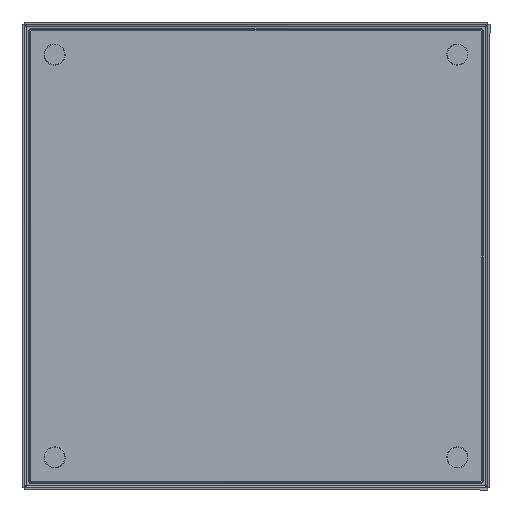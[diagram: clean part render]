
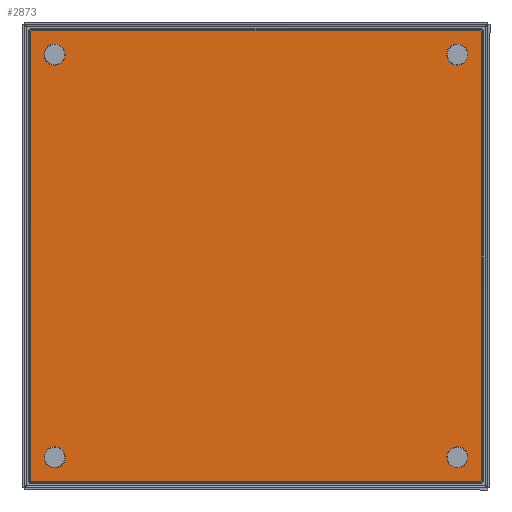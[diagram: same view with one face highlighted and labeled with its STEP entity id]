
A CAD part, front view. The second image highlights one B-rep face of the part: STEP entity #2873.
In plain terms, the highlighted planar face has unit normal (0, -1, 0) as drawn and (0, 0, -1) by its records, which use the part's own axes.
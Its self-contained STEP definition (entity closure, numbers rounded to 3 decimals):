
#48 = CARTESIAN_POINT ( 'NONE',  ( 95.5, 95.5, -1. ) ) ;
#86 = CARTESIAN_POINT ( 'NONE',  ( 106.5, -106.5, -1. ) ) ;
#90 = CARTESIAN_POINT ( 'NONE',  ( 0., 0., -1. ) ) ;
#145 = DIRECTION ( 'NONE',  ( 0., 0., -1. ) ) ;
#214 = CARTESIAN_POINT ( 'NONE',  ( -99., -95.5, -1. ) ) ;
#444 = DIRECTION ( 'NONE',  ( 1., 0., 0. ) ) ;
#602 = EDGE_CURVE ( 'NONE', #11465, #8908, #10019, .T. ) ;
#925 = CARTESIAN_POINT ( 'NONE',  ( 107.5, -106.5, -1. ) ) ;
#939 = LINE ( 'NONE', #8787, #7291 ) ;
#1048 = VERTEX_POINT ( 'NONE', #4214 ) ;
#1106 = FACE_BOUND ( 'NONE', #1204, .T. ) ;
#1155 = ORIENTED_EDGE ( 'NONE', *, *, #4285, .F. ) ;
#1181 = DIRECTION ( 'NONE',  ( 0., -1., 0. ) ) ;
#1204 = EDGE_LOOP ( 'NONE', ( #11854, #2503 ) ) ;
#1265 = DIRECTION ( 'NONE',  ( 1., 0., 0. ) ) ;
#1391 = VECTOR ( 'NONE', #9056, 1000. ) ;
#1548 = DIRECTION ( 'NONE',  ( 0., 0., 1. ) ) ;
#1554 = AXIS2_PLACEMENT_3D ( 'NONE', #90, #7892, #11593 ) ;
#1572 = DIRECTION ( 'NONE',  ( -1., 0., 0. ) ) ;
#1590 = VERTEX_POINT ( 'NONE', #9969 ) ;
#1615 = CARTESIAN_POINT ( 'NONE',  ( -92., -95.5, -1. ) ) ;
#1677 = EDGE_LOOP ( 'NONE', ( #6624, #10249, #11020, #3616, #1155, #3593, #2530, #5745 ) ) ;
#1686 = CARTESIAN_POINT ( 'NONE',  ( -95.5, -95.5, -1. ) ) ;
#1730 = AXIS2_PLACEMENT_3D ( 'NONE', #11908, #1548, #5409 ) ;
#2024 = DIRECTION ( 'NONE',  ( 1., 0., 0. ) ) ;
#2109 = VERTEX_POINT ( 'NONE', #8868 ) ;
#2322 = DIRECTION ( 'NONE',  ( 1., 0., 0. ) ) ;
#2376 = DIRECTION ( 'NONE',  ( 1., 0., 0. ) ) ;
#2503 = ORIENTED_EDGE ( 'NONE', *, *, #5361, .T. ) ;
#2530 = ORIENTED_EDGE ( 'NONE', *, *, #4666, .F. ) ;
#2686 = CIRCLE ( 'NONE', #6920, 1. ) ;
#2824 = EDGE_CURVE ( 'NONE', #6561, #8128, #8230, .T. ) ;
#2871 = CARTESIAN_POINT ( 'NONE',  ( -106.5, 106.5, -1. ) ) ;
#2873 = ADVANCED_FACE ( 'NONE', ( #7705, #1106, #9711, #3027, #6876 ), #5986, .F. ) ;
#2904 = CIRCLE ( 'NONE', #11146, 1. ) ;
#2931 = DIRECTION ( 'NONE',  ( 0., 0., 1. ) ) ;
#2973 = CIRCLE ( 'NONE', #1730, 3.5 ) ;
#3027 = FACE_BOUND ( 'NONE', #10619, .T. ) ;
#3189 = LINE ( 'NONE', #3311, #1391 ) ;
#3311 = CARTESIAN_POINT ( 'NONE',  ( 107.5, -107.5, -1. ) ) ;
#3403 = CARTESIAN_POINT ( 'NONE',  ( -95.5, 95.5, -1. ) ) ;
#3470 = DIRECTION ( 'NONE',  ( 0., 0., 1. ) ) ;
#3557 = LINE ( 'NONE', #9238, #7296 ) ;
#3593 = ORIENTED_EDGE ( 'NONE', *, *, #602, .T. ) ;
#3616 = ORIENTED_EDGE ( 'NONE', *, *, #8023, .T. ) ;
#3628 = EDGE_LOOP ( 'NONE', ( #6370, #6354 ) ) ;
#3641 = VERTEX_POINT ( 'NONE', #12320 ) ;
#3713 = CARTESIAN_POINT ( 'NONE',  ( -106.5, 107.5, -1. ) ) ;
#3857 = DIRECTION ( 'NONE',  ( 1., 0., 0. ) ) ;
#4028 = CARTESIAN_POINT ( 'NONE',  ( -107.5, 106.5, -1. ) ) ;
#4146 = CARTESIAN_POINT ( 'NONE',  ( 107.5, -107.5, -1. ) ) ;
#4214 = CARTESIAN_POINT ( 'NONE',  ( 99., 95.5, -1. ) ) ;
#4225 = DIRECTION ( 'NONE',  ( 0., 0., 1. ) ) ;
#4285 = EDGE_CURVE ( 'NONE', #11465, #1590, #939, .T. ) ;
#4304 = CARTESIAN_POINT ( 'NONE',  ( 106.5, -107.5, -1. ) ) ;
#4523 = EDGE_CURVE ( 'NONE', #9675, #3641, #8502, .T. ) ;
#4666 = EDGE_CURVE ( 'NONE', #5852, #8908, #3557, .T. ) ;
#4670 = AXIS2_PLACEMENT_3D ( 'NONE', #8402, #3470, #9464 ) ;
#4673 = DIRECTION ( 'NONE',  ( 0., 0., 1. ) ) ;
#4723 = EDGE_CURVE ( 'NONE', #7821, #5178, #12057, .T. ) ;
#4932 = DIRECTION ( 'NONE',  ( 0., 0., -1. ) ) ;
#4972 = DIRECTION ( 'NONE',  ( 1., 0., 0. ) ) ;
#5178 = VERTEX_POINT ( 'NONE', #4304 ) ;
#5198 = CARTESIAN_POINT ( 'NONE',  ( -95.5, -95.5, -1. ) ) ;
#5361 = EDGE_CURVE ( 'NONE', #7759, #7500, #8799, .T. ) ;
#5409 = DIRECTION ( 'NONE',  ( 1., 0., 0. ) ) ;
#5442 = CIRCLE ( 'NONE', #6727, 1. ) ;
#5485 = ORIENTED_EDGE ( 'NONE', *, *, #10441, .T. ) ;
#5497 = EDGE_CURVE ( 'NONE', #3641, #9675, #10002, .T. ) ;
#5564 = EDGE_CURVE ( 'NONE', #8128, #6561, #2973, .T. ) ;
#5737 = ORIENTED_EDGE ( 'NONE', *, *, #5564, .T. ) ;
#5745 = ORIENTED_EDGE ( 'NONE', *, *, #9349, .T. ) ;
#5852 = VERTEX_POINT ( 'NONE', #9183 ) ;
#5853 = CIRCLE ( 'NONE', #9083, 3.5 ) ;
#5924 = DIRECTION ( 'NONE',  ( 0., 0., 1. ) ) ;
#5986 = PLANE ( 'NONE',  #1554 ) ;
#6038 = DIRECTION ( 'NONE',  ( 1., 0., 0. ) ) ;
#6267 = DIRECTION ( 'NONE',  ( 1., 0., 0. ) ) ;
#6336 = DIRECTION ( 'NONE',  ( 1., 0., 0. ) ) ;
#6354 = ORIENTED_EDGE ( 'NONE', *, *, #5497, .T. ) ;
#6370 = ORIENTED_EDGE ( 'NONE', *, *, #4523, .T. ) ;
#6561 = VERTEX_POINT ( 'NONE', #8635 ) ;
#6585 = AXIS2_PLACEMENT_3D ( 'NONE', #1686, #4673, #3857 ) ;
#6624 = ORIENTED_EDGE ( 'NONE', *, *, #10457, .F. ) ;
#6727 = AXIS2_PLACEMENT_3D ( 'NONE', #86, #145, #6038 ) ;
#6876 = FACE_OUTER_BOUND ( 'NONE', #1677, .T. ) ;
#6920 = AXIS2_PLACEMENT_3D ( 'NONE', #12117, #11045, #6267 ) ;
#6940 = CARTESIAN_POINT ( 'NONE',  ( 95.5, -95.5, -1. ) ) ;
#7291 = VECTOR ( 'NONE', #1181, 1000. ) ;
#7296 = VECTOR ( 'NONE', #1572, 1000. ) ;
#7496 = DIRECTION ( 'NONE',  ( 1., 0., 0. ) ) ;
#7500 = VERTEX_POINT ( 'NONE', #1615 ) ;
#7515 = CIRCLE ( 'NONE', #10111, 3.5 ) ;
#7685 = VERTEX_POINT ( 'NONE', #925 ) ;
#7705 = FACE_BOUND ( 'NONE', #11385, .T. ) ;
#7759 = VERTEX_POINT ( 'NONE', #214 ) ;
#7806 = AXIS2_PLACEMENT_3D ( 'NONE', #3403, #4225, #2322 ) ;
#7821 = VERTEX_POINT ( 'NONE', #9080 ) ;
#7892 = DIRECTION ( 'NONE',  ( 0., 0., 1. ) ) ;
#7989 = DIRECTION ( 'NONE',  ( 0., 0., 1. ) ) ;
#8023 = EDGE_CURVE ( 'NONE', #7821, #1590, #2904, .T. ) ;
#8057 = CARTESIAN_POINT ( 'NONE',  ( 99., -95.5, -1. ) ) ;
#8128 = VERTEX_POINT ( 'NONE', #8057 ) ;
#8230 = CIRCLE ( 'NONE', #10829, 3.5 ) ;
#8402 = CARTESIAN_POINT ( 'NONE',  ( -95.5, 95.5, -1. ) ) ;
#8412 = EDGE_CURVE ( 'NONE', #1048, #10701, #7515, .T. ) ;
#8420 = AXIS2_PLACEMENT_3D ( 'NONE', #2871, #4932, #2024 ) ;
#8502 = CIRCLE ( 'NONE', #4670, 3.5 ) ;
#8635 = CARTESIAN_POINT ( 'NONE',  ( 92., -95.5, -1. ) ) ;
#8787 = CARTESIAN_POINT ( 'NONE',  ( -107.5, -107.5, -1. ) ) ;
#8799 = CIRCLE ( 'NONE', #6585, 3.5 ) ;
#8868 = CARTESIAN_POINT ( 'NONE',  ( 107.5, 106.5, -1. ) ) ;
#8907 = VECTOR ( 'NONE', #6336, 1000. ) ;
#8908 = VERTEX_POINT ( 'NONE', #3713 ) ;
#9056 = DIRECTION ( 'NONE',  ( 0., 1., 0. ) ) ;
#9079 = AXIS2_PLACEMENT_3D ( 'NONE', #10929, #7989, #1265 ) ;
#9080 = CARTESIAN_POINT ( 'NONE',  ( -106.5, -107.5, -1. ) ) ;
#9083 = AXIS2_PLACEMENT_3D ( 'NONE', #5198, #9867, #444 ) ;
#9183 = CARTESIAN_POINT ( 'NONE',  ( 106.5, 107.5, -1. ) ) ;
#9238 = CARTESIAN_POINT ( 'NONE',  ( 107.5, 107.5, -1. ) ) ;
#9349 = EDGE_CURVE ( 'NONE', #5852, #2109, #2686, .T. ) ;
#9390 = CARTESIAN_POINT ( 'NONE',  ( -92., 95.5, -1. ) ) ;
#9464 = DIRECTION ( 'NONE',  ( 1., 0., 0. ) ) ;
#9675 = VERTEX_POINT ( 'NONE', #9390 ) ;
#9711 = FACE_BOUND ( 'NONE', #3628, .T. ) ;
#9867 = DIRECTION ( 'NONE',  ( 0., 0., 1. ) ) ;
#9969 = CARTESIAN_POINT ( 'NONE',  ( -107.5, -106.5, -1. ) ) ;
#10002 = CIRCLE ( 'NONE', #7806, 3.5 ) ;
#10019 = CIRCLE ( 'NONE', #8420, 1. ) ;
#10111 = AXIS2_PLACEMENT_3D ( 'NONE', #48, #2931, #2376 ) ;
#10249 = ORIENTED_EDGE ( 'NONE', *, *, #11344, .T. ) ;
#10441 = EDGE_CURVE ( 'NONE', #10701, #1048, #11274, .T. ) ;
#10442 = ORIENTED_EDGE ( 'NONE', *, *, #2824, .T. ) ;
#10457 = EDGE_CURVE ( 'NONE', #7685, #2109, #3189, .T. ) ;
#10619 = EDGE_LOOP ( 'NONE', ( #11334, #5485 ) ) ;
#10701 = VERTEX_POINT ( 'NONE', #11478 ) ;
#10829 = AXIS2_PLACEMENT_3D ( 'NONE', #6940, #5924, #4972 ) ;
#10929 = CARTESIAN_POINT ( 'NONE',  ( 95.5, 95.5, -1. ) ) ;
#11020 = ORIENTED_EDGE ( 'NONE', *, *, #4723, .F. ) ;
#11045 = DIRECTION ( 'NONE',  ( 0., 0., -1. ) ) ;
#11146 = AXIS2_PLACEMENT_3D ( 'NONE', #11322, #12340, #7496 ) ;
#11274 = CIRCLE ( 'NONE', #9079, 3.5 ) ;
#11322 = CARTESIAN_POINT ( 'NONE',  ( -106.5, -106.5, -1. ) ) ;
#11334 = ORIENTED_EDGE ( 'NONE', *, *, #8412, .T. ) ;
#11344 = EDGE_CURVE ( 'NONE', #7685, #5178, #5442, .T. ) ;
#11385 = EDGE_LOOP ( 'NONE', ( #5737, #10442 ) ) ;
#11465 = VERTEX_POINT ( 'NONE', #4028 ) ;
#11478 = CARTESIAN_POINT ( 'NONE',  ( 92., 95.5, -1. ) ) ;
#11593 = DIRECTION ( 'NONE',  ( 1., 0., 0. ) ) ;
#11854 = ORIENTED_EDGE ( 'NONE', *, *, #12128, .T. ) ;
#11908 = CARTESIAN_POINT ( 'NONE',  ( 95.5, -95.5, -1. ) ) ;
#12057 = LINE ( 'NONE', #4146, #8907 ) ;
#12117 = CARTESIAN_POINT ( 'NONE',  ( 106.5, 106.5, -1. ) ) ;
#12128 = EDGE_CURVE ( 'NONE', #7500, #7759, #5853, .T. ) ;
#12320 = CARTESIAN_POINT ( 'NONE',  ( -99., 95.5, -1. ) ) ;
#12340 = DIRECTION ( 'NONE',  ( 0., 0., -1. ) ) ;
